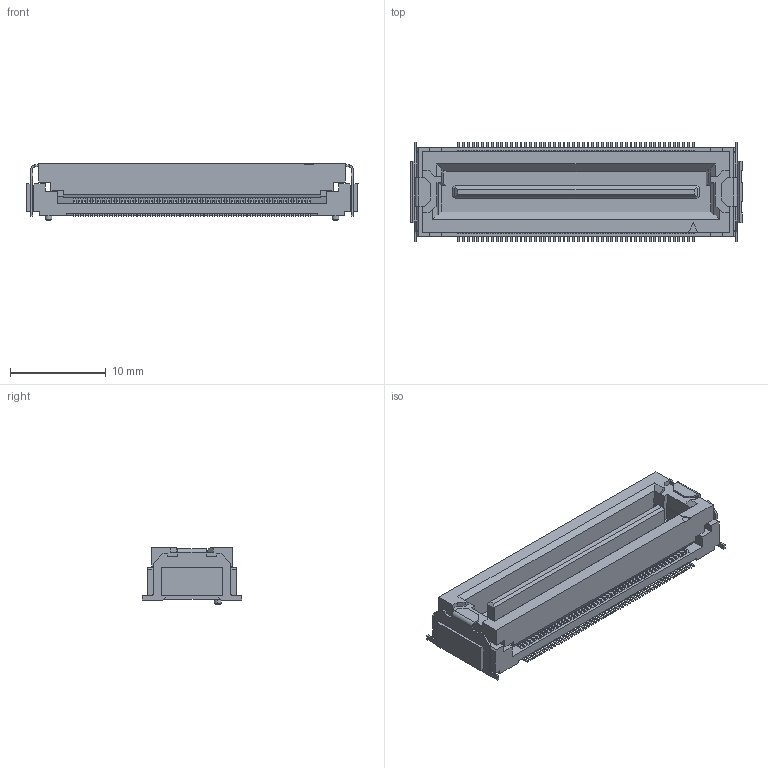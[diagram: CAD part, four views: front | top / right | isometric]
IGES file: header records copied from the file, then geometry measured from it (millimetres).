
Start section: Elysium IGES Interface
Global section: file name: 75HC:\Users\1502\Desktop\DT_webリニューアル\レセ\ボス有\P3D071_DT01-100S-T.igs; native system: Creo Elements/Direct Modeling 19.0F  14-Feb-2017; preprocessor: Creo Element/Direct IGES_3D V2.2; author: Unknown; organization: Unknown; date: 20170811.094528; units: millimetre
Bounding box: 34.7 x 10.38 x 5.95 mm (x, y, z)
Volume: 1013.9 mm3; surface area: 2148.3 mm2
Topology: 1 solids, 1 shells, 2962 faces, 8143 edges, 5286 vertices
Faces by surface type: bspline 2962
